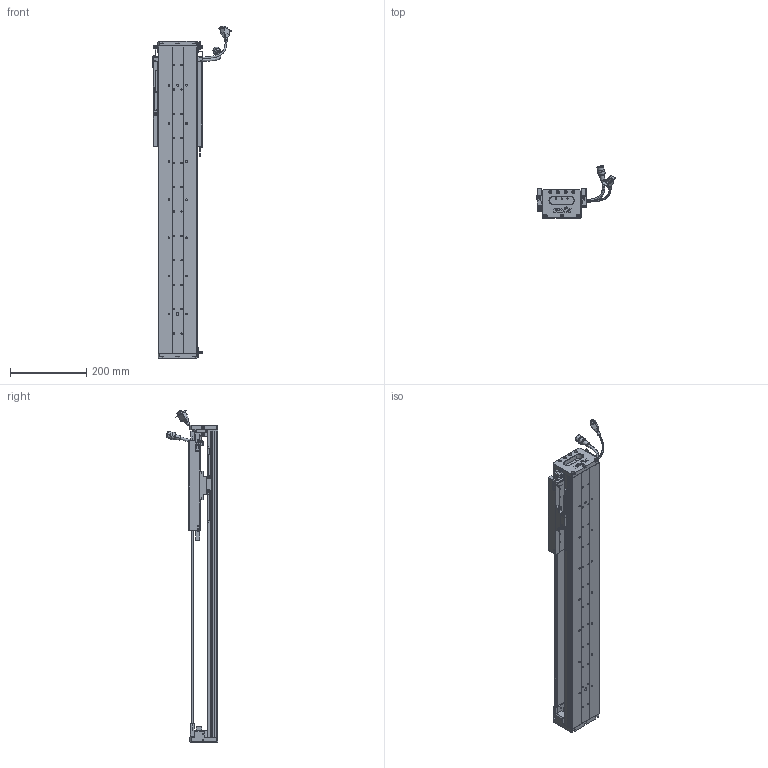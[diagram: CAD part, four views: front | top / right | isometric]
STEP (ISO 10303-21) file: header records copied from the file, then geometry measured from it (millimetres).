
FILE_DESCRIPTION (( 'STEP AP203' ), '1' );
FILE_NAME ('Z3-RY100D-1-L500-B-K.SLDASM_0500.step', '2021-05-17T02:49:42', ( '盈信电脑' ), ( '东莞市道滘镇水果街19号' ), 'SwSTEP 2.0', 'SolidWorks 2016', '' );
FILE_SCHEMA (( 'CONFIG_CONTROL_DESIGN' ));
Length unit declared in the file: millimetre
Products named in the file (36): HOLDER0; SCREW-M1.7-1; SEAL; SCALE-Part-2; HARNESS-Part-1; Z-RY100D覜茼んえ; Z3-RY100D-1-L500-B-K.SLDASM_0500; SEAL-Part-1; PSLH080_PSLF2; SCREW-M1.7; Z-RY100D詩湍狟揤裔; SCALE-Part-1; 100-Z-臏賑輸盄裔(21遴); HARNESS-Part-2; COVER; COVER-Part-1; Z-100詩湍傷裔啣; LABEL-Part-1; 140蚥薯蝶輸; SHIELDPLATE; Z3-RY100-L500詩湍90mm遵_0500; Z-RY100D詩湍奻揤裔; 080黍杅芛假蚾釱21遴; 覜茼ん672; SCREW-M1.6; SCALE; SCREW-M1.6-2; 榋妏寠巭燃_暯_M2_2; SCREW-M1.6-3; HARNESS; Z3-RY100铝滑块（21款）; PBU_SHEET; LABEL; SCREW-M1.6-1; 140雄赽晤鎢ん堤盄; Z3-RY100D-500-倰第菁釱_0500
Assembly tree (43 placements, depth 4):
  Z3-RY100D-1-L500-B-K.SLDASM_0500
    Z3-RY100D-500-倰第菁釱_0500
    Z3-RY100铝滑块（21款）
    PSLH080_PSLF2
      SCALE
        SCALE-Part-1
        SCALE-Part-2
      HARNESS
        HARNESS-Part-1
        HARNESS-Part-2
      LABEL
        LABEL-Part-1
      COVER
        COVER-Part-1
      SEAL
        SEAL-Part-1
      榋妏寠巭燃_暯_M2_2
      SHIELDPLATE
      SCREW-M1.7
      SCREW-M1.7-1
      PBU_SHEET
      SCREW-M1.6
      SCREW-M1.6-1
      SCREW-M1.6-2
      SCREW-M1.6-3
      HOLDER0
    080黍杅芛假蚾釱21遴
    Z-100詩湍傷裔啣  x2
    140蚥薯蝶輸  x2
    覜茼ん672  x3
    Z-RY100D覜茼んえ  x3
    100-Z-臏賑輸盄裔(21遴)
    140雄赽晤鎢ん堤盄
    Z3-RY100-L500詩湍90mm遵_0500
    Z-RY100D詩湍狟揤裔  x2
    Z-RY100D詩湍奻揤裔  x2
Bounding box: 205.84 x 136.11 x 870.43 mm (x, y, z)
Volume: 2016325 mm3; surface area: 756589.1 mm2
Topology: 38 solids, 38 shells, 2505 faces, 6517 edges, 4112 vertices
Faces by surface type: plane 1107, cylinder 1050, cone 226, torus 69, bspline 53
Entity records: 67047 total; most frequent: CARTESIAN_POINT 14149, DIRECTION 10567, ORIENTED_EDGE 9914, EDGE_CURVE 4957, AXIS2_PLACEMENT_3D 3862, VERTEX_POINT 3180, LINE 2843, VECTOR 2843
